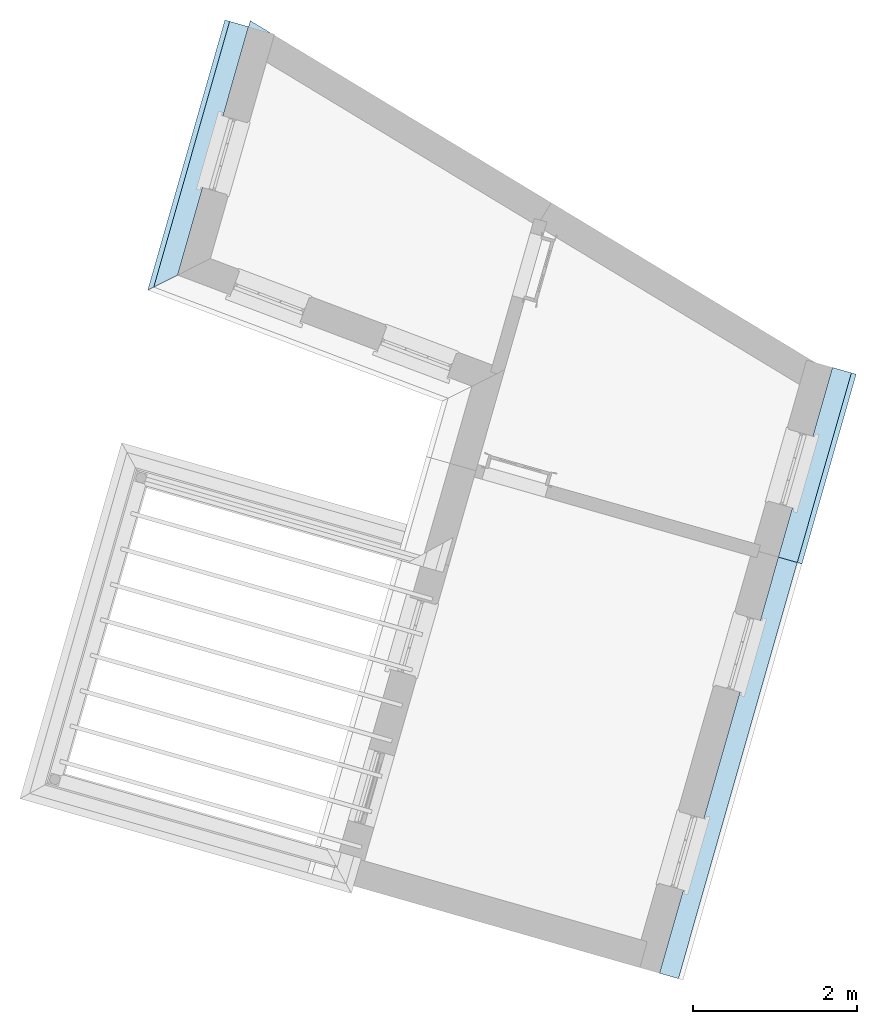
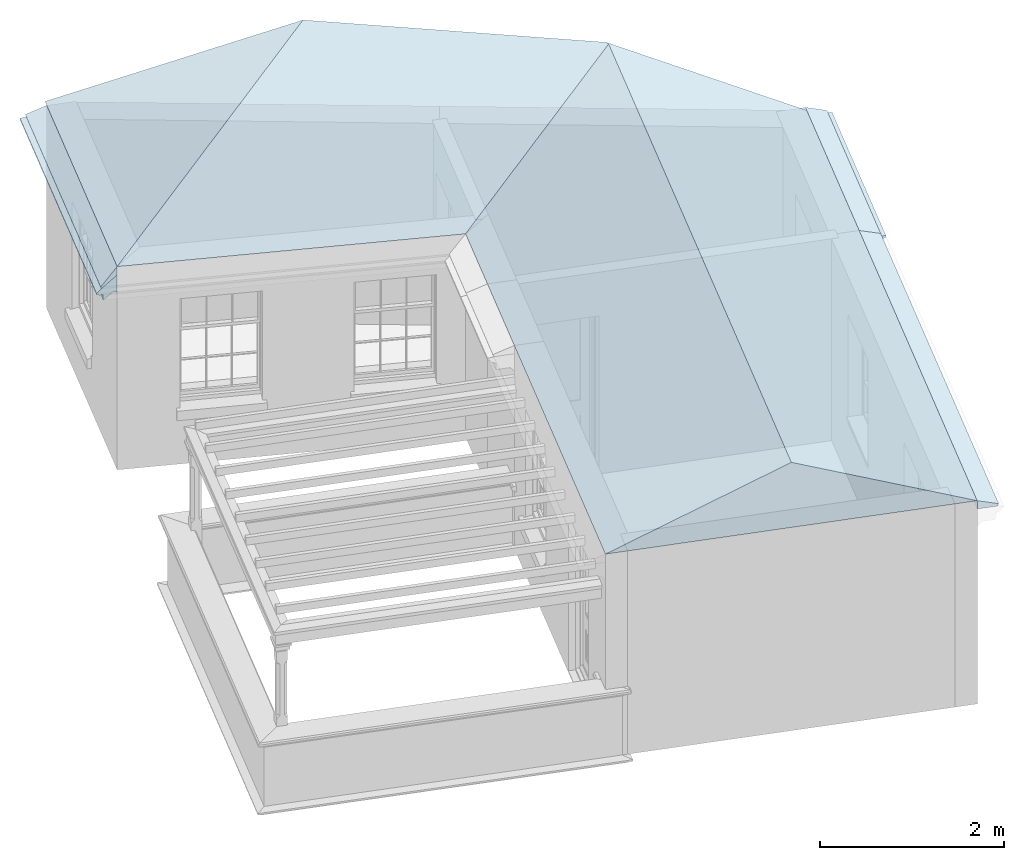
# One storey, part 5 of 5: 6 roofs.
"""IFC4 building model written with IfcOpenShell, lengths in metres."""

from ifc_helpers import new_model, si_unit, frame, origin, origin_with_axes, place, context, subcontext, project, spatial, polyline, outline, extrude, boolean, clip, halfspace, faceted_brep, material_profile, profile_set, profile_usage, type_object, element, save


model = new_model("IFC4")

# Units and contexts
model_context = context("Model", 3, world=origin_with_axes())
body_context = subcontext(model_context, "Body", "Model", "MODEL_VIEW")
ifc_project = project(units=[si_unit("PLANEANGLEUNIT", "RADIAN"), si_unit("MASSUNIT", "GRAM", prefix="KILO"), si_unit("FORCEUNIT", "NEWTON", prefix="KILO"), si_unit("LENGTHUNIT", "METRE"), si_unit("AREAUNIT", "SQUARE_METRE"), si_unit("VOLUMEUNIT", "CUBIC_METRE")], contexts=[model_context, model_context])

# Sites, building, storey
site_1_placement = place(None, origin_with_axes())
site_1 = spatial("IfcSite", under=ifc_project, at=site_1_placement, Name="Tamar")
site_2_placement = place(site_1_placement, origin_with_axes())
site_2 = spatial("IfcSite", under=site_1, at=site_2_placement, Name="Site plot-19", CompositionType="ELEMENT")
building_placement = place(None, origin_with_axes())
building = spatial("IfcBuilding", under=site_2, at=building_placement, Name="Building plot-19", CompositionType="ELEMENT")
storey_placement = place(None, frame((0.0, 0.0, 30.4), z_axis=(0.0, 0.0, 1.0), x_axis=(1.0, 0.0, 0.0)))
storey = spatial("IfcBuildingStorey", under=building, at=storey_placement, Name="plot-19 1", CompositionType="ELEMENT", Elevation=30.4)

# Roofs
ifc_material_profile_1 = material_profile(None, outline(polyline([(0.25, -0.11), (0.25, -0.33), (0.265, -0.33), (0.268, -0.318), (0.274, -0.309), (0.283, -0.303), (0.295, -0.3), (0.295, -0.285), (0.455, -0.285), (0.455, -0.205), (0.47, -0.205), (0.47, -0.19), (0.483, -0.189), (0.494, -0.186), (0.506, -0.179), (0.514, -0.17), (0.52, -0.16), (0.529, -0.149), (0.539, -0.143), (0.55, -0.14), (0.55, -0.12), (0.48, -0.11), (0.25, -0.11)])))
ifc_profile_set_1 = profile_set([ifc_material_profile_1])
ifc_profile_usage_1 = profile_usage(ifc_profile_set_1)
roof_type_1 = type_object("IfcRoofType", Name="eaves_0", PredefinedType="FREEFORM", material=ifc_profile_set_1)
roof_1_placement = place(storey_placement, frame((276.85057170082, 300.760808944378, 2.7), z_axis=(0.274568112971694, 0.961567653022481, 0.0), x_axis=(-0.961567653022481, 0.274568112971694, 0.0)))
element("IfcRoof", 1, at=roof_1_placement, inside=storey, type_object=roof_type_1, material=ifc_profile_usage_1, Name="eaves_0", context=body_context, shape_type="Clipping", body=[
    clip(clip(extrude(outline(polyline([(0.25, -0.11), (0.25, -0.33), (0.265, -0.33), (0.268, -0.318), (0.274, -0.309), (0.283, -0.303), (0.295, -0.3), (0.295, -0.285), (0.455, -0.285), (0.455, -0.205), (0.47, -0.205), (0.47, -0.19), (0.483, -0.189), (0.494, -0.186), (0.506, -0.179), (0.514, -0.17), (0.52, -0.16), (0.529, -0.149), (0.539, -0.143), (0.55, -0.14), (0.55, -0.12), (0.48, -0.11), (0.25, -0.11)])), origin_with_axes(), (0.0, 0.0, 1.0), 4.92398397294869), halfspace(frame((0.0, 0.0, 3.92398397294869), z_axis=(-1.60484438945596e-14, 0.0, -1.0), x_axis=(0.0, 1.0, 0.0)), True)), halfspace(frame((0.0, 0.0, 1.0), z_axis=(-0.677186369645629, 0.0, -0.735811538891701), x_axis=(0.0, 1.0, 0.0)), False)),
])
ifc_material_profile_2 = material_profile(None, outline(polyline([(0.25, -0.11), (0.48, -0.11), (0.49, -0.08), (0.25, 0.0), (0.25, -0.11)])))
ifc_profile_set_2 = profile_set([ifc_material_profile_2])
ifc_profile_usage_2 = profile_usage(ifc_profile_set_2)
roof_type_2 = type_object("IfcRoofType", Name="eaves_1", PredefinedType="FREEFORM", material=ifc_profile_set_2)
roof_2_placement = place(storey_placement, frame((276.85057170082, 300.760808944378, 2.7), z_axis=(0.274568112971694, 0.961567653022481, 0.0), x_axis=(-0.961567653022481, 0.274568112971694, 0.0)))
element("IfcRoof", 2, at=roof_2_placement, inside=storey, type_object=roof_type_2, material=ifc_profile_usage_2, Name="eaves_1", context=body_context, shape_type="Clipping", body=[
    clip(clip(extrude(outline(polyline([(0.25, -0.11), (0.48, -0.11), (0.49, -0.08), (0.25, 0.0), (0.25, -0.11)])), origin_with_axes(), (0.0, 0.0, 1.0), 4.92398397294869), halfspace(frame((0.0, 0.0, 3.92398397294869), z_axis=(-1.60484438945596e-14, 0.0, -1.0), x_axis=(0.0, 1.0, 0.0)), True)), halfspace(frame((0.0, 0.0, 1.0), z_axis=(-0.677186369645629, 0.0, -0.735811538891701), x_axis=(0.0, 1.0, 0.0)), False)),
])
ifc_material_profile_3 = material_profile(None, outline(polyline([(0.25, -0.11), (0.25, -0.33), (0.265, -0.33), (0.268, -0.318), (0.274, -0.309), (0.283, -0.303), (0.295, -0.3), (0.295, -0.285), (0.455, -0.285), (0.455, -0.205), (0.47, -0.205), (0.47, -0.19), (0.483, -0.189), (0.494, -0.186), (0.506, -0.179), (0.514, -0.17), (0.52, -0.16), (0.529, -0.149), (0.539, -0.143), (0.55, -0.14), (0.55, -0.12), (0.48, -0.11), (0.25, -0.11)])))
ifc_profile_set_3 = profile_set([ifc_material_profile_3])
ifc_profile_usage_3 = profile_usage(ifc_profile_set_3)
roof_type_3 = type_object("IfcRoofType", Name="eaves_0", PredefinedType="FREEFORM", material=ifc_profile_set_3)
roof_3_placement = place(storey_placement, frame((284.853217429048, 301.47132579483, 2.7), z_axis=(-0.274568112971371, -0.961567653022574, 0.0), x_axis=(0.961567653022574, -0.274568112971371, 0.0)))
element("IfcRoof", 3, at=roof_3_placement, inside=storey, type_object=roof_type_3, material=ifc_profile_usage_3, Name="eaves_0", context=body_context, shape_type="Clipping", body=[
    clip(clip(extrude(outline(polyline([(0.25, -0.11), (0.25, -0.33), (0.265, -0.33), (0.268, -0.318), (0.274, -0.309), (0.283, -0.303), (0.295, -0.3), (0.295, -0.285), (0.455, -0.285), (0.455, -0.205), (0.47, -0.205), (0.47, -0.19), (0.483, -0.189), (0.494, -0.186), (0.506, -0.179), (0.514, -0.17), (0.52, -0.16), (0.529, -0.149), (0.539, -0.143), (0.55, -0.14), (0.55, -0.12), (0.48, -0.11), (0.25, -0.11)])), origin_with_axes(), (0.0, 0.0, 1.0), 4.40808513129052), halfspace(frame((0.0, 0.0, 3.40808513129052), z_axis=(1.95115975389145e-13, 0.0, -1.0), x_axis=(0.0, 1.0, 0.0)), True)), halfspace(frame((0.0, 0.0, 1.0), z_axis=(1.54818900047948e-14, 0.0, -1.0), x_axis=(0.0, 1.0, 0.0)), False)),
])
ifc_material_profile_4 = material_profile(None, outline(polyline([(0.25, -0.11), (0.48, -0.11), (0.49, -0.08), (0.25, 0.0), (0.25, -0.11)])))
ifc_profile_set_4 = profile_set([ifc_material_profile_4])
ifc_profile_usage_4 = profile_usage(ifc_profile_set_4)
roof_type_4 = type_object("IfcRoofType", Name="eaves_1", PredefinedType="FREEFORM", material=ifc_profile_set_4)
roof_4_placement = place(storey_placement, frame((284.192034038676, 299.155789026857, 2.7), z_axis=(-0.274568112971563, -0.961567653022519, 0.0), x_axis=(0.961567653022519, -0.274568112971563, 0.0)))
element("IfcRoof", 4, at=roof_4_placement, inside=storey, type_object=roof_type_4, material=ifc_profile_usage_4, Name="eaves_1", context=body_context, shape_type="Clipping", body=[
    clip(clip(extrude(outline(polyline([(0.25, -0.11), (0.48, -0.11), (0.49, -0.08), (0.25, 0.0), (0.25, -0.11)])), origin_with_axes(), (0.0, 0.0, 1.0), 7.28488060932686), halfspace(frame((0.0, 0.0, 6.28488060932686), z_axis=(-4.50212443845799e-15, 0.0, -1.0), x_axis=(0.0, 1.0, 0.0)), True)), halfspace(frame((0.0, 0.0, 1.0), z_axis=(-4.50212443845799e-15, 0.0, -1.0), x_axis=(0.0, 1.0, 0.0)), False)),
])
ifc_profile_usage_5 = profile_usage(ifc_profile_set_4)
roof_5_placement = place(storey_placement, frame((284.853217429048, 301.47132579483, 2.7), z_axis=(-0.274568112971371, -0.961567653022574, 0.0), x_axis=(0.961567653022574, -0.274568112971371, 0.0)))
element("IfcRoof", 5, at=roof_5_placement, inside=storey, type_object=roof_type_4, material=ifc_profile_usage_5, Name="eaves_1", context=body_context, shape_type="Clipping", body=[
    clip(clip(extrude(outline(polyline([(0.25, -0.11), (0.48, -0.11), (0.49, -0.08), (0.25, 0.0), (0.25, -0.11)])), origin_with_axes(), (0.0, 0.0, 1.0), 4.40808513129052), halfspace(frame((0.0, 0.0, 3.40808513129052), z_axis=(1.95115975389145e-13, 0.0, -1.0), x_axis=(0.0, 1.0, 0.0)), True)), halfspace(frame((0.0, 0.0, 1.0), z_axis=(1.54818900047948e-14, 0.0, -1.0), x_axis=(0.0, 1.0, 0.0)), False)),
])
roof_6_placement = place(building_placement, origin())
element("IfcRoof", 6, at=roof_6_placement, inside=storey, Name="Roof", PredefinedType="FREEFORM", context=body_context, shape_type="CSG", body=[
    boolean("UNION", faceted_brep([(282.706798, 293.043809, 33.1), (284.802841, 300.384381, 33.1), (282.953399, 301.503451, 33.963894), (280.701329, 293.616455, 33.963894), (281.103957, 302.622521, 33.1), (278.69586, 294.189101, 33.1)], [[[0, 1, 2, 3]], [[4, 5, 3, 2]], [[5, 4, 1, 0]], [[5, 0, 3]], [[1, 4, 2]]]), faceted_brep([(276.821575, 301.56978, 33.1), (284.331533, 298.733808, 33.1), (282.93311, 301.515727, 33.973371), (280.111025, 303.22333, 34.222111), (277.708786, 304.676889, 33.1), (284.802841, 300.384381, 33.1)], [[[0, 1, 2, 3]], [[4, 5, 1, 0]], [[3, 4, 0]], [[2, 1, 5]], [[2, 5, 4, 3]]])),
])

save(model, "model.ifc")
